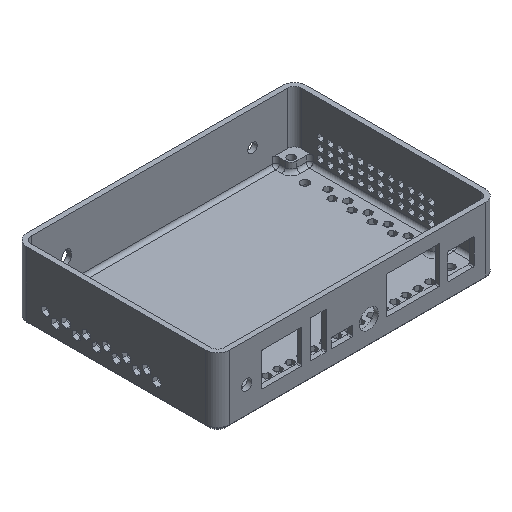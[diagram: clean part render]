
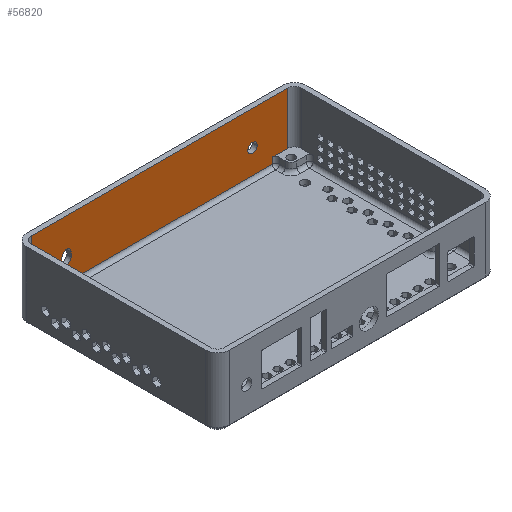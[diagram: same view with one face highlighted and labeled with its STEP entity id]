
A CAD part, isometric view. The second image highlights one B-rep face of the part: STEP entity #56820.
In plain terms, the highlighted planar face has unit normal (0, -1, 0).
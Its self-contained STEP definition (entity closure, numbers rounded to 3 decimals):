
#164=FACE_BOUND('',#7012,.T.);
#165=FACE_BOUND('',#7013,.T.);
#1489=PLANE('',#59747);
#4148=FACE_OUTER_BOUND('',#7011,.T.);
#7011=EDGE_LOOP('',(#42681,#42682,#42683,#42684,#42685,#42686,#42687,#42688));
#7012=EDGE_LOOP('',(#42689));
#7013=EDGE_LOOP('',(#42690,#42691,#42692,#42693));
#10000=LINE('',#76022,#17953);
#10004=LINE('',#76032,#17957);
#11655=LINE('',#79542,#19608);
#11658=LINE('',#79552,#19611);
#11669=LINE('',#79595,#19622);
#11677=LINE('',#79612,#19630);
#11678=LINE('',#79615,#19631);
#11679=LINE('',#79617,#19632);
#11680=LINE('',#79618,#19633);
#11681=LINE('',#79619,#19634);
#17953=VECTOR('',#62076,10.);
#17957=VECTOR('',#62088,10.);
#19608=VECTOR('',#65051,1000.);
#19611=VECTOR('',#65060,1000.);
#19622=VECTOR('',#65097,1000.);
#19630=VECTOR('',#65115,1000.);
#19631=VECTOR('',#65118,1000.);
#19632=VECTOR('',#65119,1000.);
#19633=VECTOR('',#65120,1000.);
#19634=VECTOR('',#65121,1000.);
#25902=CIRCLE('',#59060,2.);
#25905=CIRCLE('',#59064,2.);
#25907=CIRCLE('',#59068,2.);
#26138=VERTEX_POINT('',#76004);
#26142=VERTEX_POINT('',#76013);
#26143=VERTEX_POINT('',#76015);
#26145=VERTEX_POINT('',#76021);
#26147=VERTEX_POINT('',#76027);
#27349=VERTEX_POINT('',#79539);
#27350=VERTEX_POINT('',#79541);
#27353=VERTEX_POINT('',#79549);
#27354=VERTEX_POINT('',#79551);
#27372=VERTEX_POINT('',#79592);
#27373=VERTEX_POINT('',#79594);
#27378=VERTEX_POINT('',#79614);
#27379=VERTEX_POINT('',#79616);
#31580=EDGE_CURVE('',#26138,#26138,#25902,.T.);
#31585=EDGE_CURVE('',#26143,#26142,#25905,.T.);
#31588=EDGE_CURVE('',#26145,#26143,#10000,.T.);
#31591=EDGE_CURVE('',#26147,#26145,#25907,.T.);
#31594=EDGE_CURVE('',#26142,#26147,#10004,.T.);
#33346=EDGE_CURVE('',#27349,#27350,#11655,.T.);
#33351=EDGE_CURVE('',#27353,#27354,#11658,.T.);
#33373=EDGE_CURVE('',#27372,#27373,#11669,.T.);
#33383=EDGE_CURVE('',#27372,#27354,#11677,.T.);
#33384=EDGE_CURVE('',#27353,#27378,#11678,.T.);
#33385=EDGE_CURVE('',#27378,#27379,#11679,.T.);
#33386=EDGE_CURVE('',#27379,#27350,#11680,.T.);
#33387=EDGE_CURVE('',#27373,#27349,#11681,.T.);
#42681=ORIENTED_EDGE('',*,*,#33384,.T.);
#42682=ORIENTED_EDGE('',*,*,#33385,.T.);
#42683=ORIENTED_EDGE('',*,*,#33386,.T.);
#42684=ORIENTED_EDGE('',*,*,#33346,.F.);
#42685=ORIENTED_EDGE('',*,*,#33387,.F.);
#42686=ORIENTED_EDGE('',*,*,#33373,.F.);
#42687=ORIENTED_EDGE('',*,*,#33383,.T.);
#42688=ORIENTED_EDGE('',*,*,#33351,.F.);
#42689=ORIENTED_EDGE('',*,*,#31580,.T.);
#42690=ORIENTED_EDGE('',*,*,#31594,.T.);
#42691=ORIENTED_EDGE('',*,*,#31591,.T.);
#42692=ORIENTED_EDGE('',*,*,#31588,.T.);
#42693=ORIENTED_EDGE('',*,*,#31585,.T.);
#56820=ADVANCED_FACE('',(#4148,#164,#165),#1489,.F.);
#59060=AXIS2_PLACEMENT_3D('',#76005,#62060,#62061);
#59064=AXIS2_PLACEMENT_3D('',#76016,#62070,#62071);
#59068=AXIS2_PLACEMENT_3D('',#76028,#62082,#62083);
#59747=AXIS2_PLACEMENT_3D('',#79613,#65116,#65117);
#62060=DIRECTION('center_axis',(0.,1.,0.));
#62061=DIRECTION('ref_axis',(-1.,0.,0.));
#62070=DIRECTION('center_axis',(0.,1.,0.));
#62071=DIRECTION('ref_axis',(0.,0.,
-1.));
#62076=DIRECTION('',(1.,0.,0.));
#62082=DIRECTION('center_axis',(0.,1.,0.));
#62083=DIRECTION('ref_axis',(0.,0.,
1.));
#62088=DIRECTION('',(-1.,0.,0.));
#65051=DIRECTION('',(0.,0.,1.));
#65060=DIRECTION('',(0.,0.,1.));
#65097=DIRECTION('',(0.,0.,-1.));
#65115=DIRECTION('',(-1.,0.,0.));
#65116=DIRECTION('center_axis',(0.,1.,0.));
#65117=DIRECTION('ref_axis',(0.,0.,1.));
#65118=DIRECTION('',(-1.,0.,0.));
#65119=DIRECTION('',(0.,0.,-1.));
#65120=DIRECTION('',(1.,0.,0.));
#65121=DIRECTION('',(-1.,0.,0.));
#76004=CARTESIAN_POINT('',(9.8,41.5,-40.));
#76005=CARTESIAN_POINT('Origin',(7.8,41.5,-40.));
#76013=CARTESIAN_POINT('',(7.969,41.5,37.875));
#76015=CARTESIAN_POINT('',(7.969,41.5,41.875));
#76016=CARTESIAN_POINT('Origin',(7.969,41.5,39.875));
#76021=CARTESIAN_POINT('',(6.142,41.5,41.875));
#76022=CARTESIAN_POINT('',(7.969,41.5,41.875));
#76027=CARTESIAN_POINT('',(6.142,41.5,37.875));
#76028=CARTESIAN_POINT('Origin',(6.142,41.5,39.875));
#76032=CARTESIAN_POINT('',(6.142,41.5,37.875));
#79539=CARTESIAN_POINT('',(0.,41.5,-55.));
#79541=CARTESIAN_POINT('',(0.,41.5,-48.5));
#79542=CARTESIAN_POINT('',(0.,41.5,0.));
#79549=CARTESIAN_POINT('',(0.,41.5,48.5));
#79551=CARTESIAN_POINT('',(0.,41.5,55.));
#79552=CARTESIAN_POINT('',(0.,41.5,0.));
#79592=CARTESIAN_POINT('',(22.5,41.5,55.));
#79594=CARTESIAN_POINT('',(22.5,41.5,-55.));
#79595=CARTESIAN_POINT('',(22.5,41.5,55.));
#79612=CARTESIAN_POINT('',(22.5,41.5,55.));
#79613=CARTESIAN_POINT('Origin',(22.5,41.5,55.));
#79614=CARTESIAN_POINT('',(-2.5,41.5,48.5));
#79615=CARTESIAN_POINT('',(-4.,41.5,48.5));
#79616=CARTESIAN_POINT('',(-2.5,41.5,-48.5));
#79617=CARTESIAN_POINT('',(-2.5,41.5,55.));
#79618=CARTESIAN_POINT('',(22.5,41.5,-48.5));
#79619=CARTESIAN_POINT('',(22.5,41.5,-55.));
